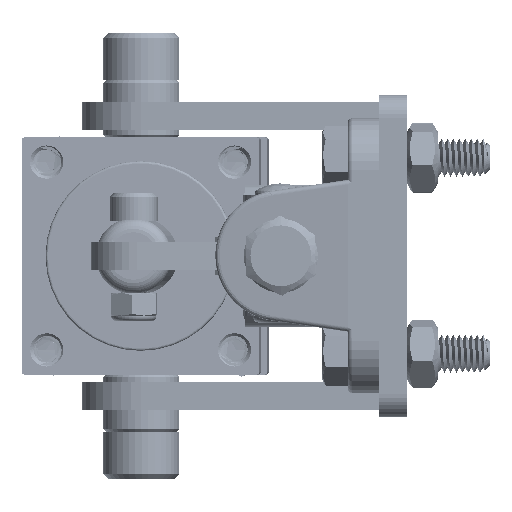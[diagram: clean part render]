
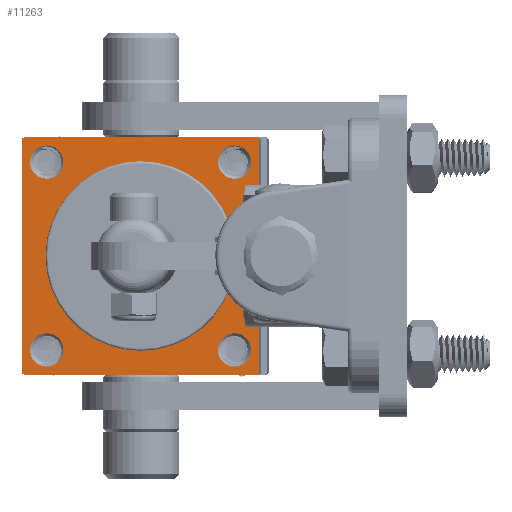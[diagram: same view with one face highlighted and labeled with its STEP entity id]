
A CAD part, left-side view. The second image highlights one B-rep face of the part: STEP entity #11263.
In plain terms, the highlighted planar face has unit normal (-1, 0.017, 0) as drawn and (0, 0, -1) by its records, which use the part's own axes.
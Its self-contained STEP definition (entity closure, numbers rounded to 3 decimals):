
#572=FACE_BOUND('',#1714,.T.);
#573=FACE_BOUND('',#1715,.T.);
#574=FACE_BOUND('',#1716,.T.);
#575=FACE_BOUND('',#1717,.T.);
#576=FACE_BOUND('',#1718,.T.);
#712=PLANE('',#12347);
#1099=FACE_OUTER_BOUND('',#1713,.T.);
#1713=EDGE_LOOP('',(#8235,#8236,#8237,#8238,#8239,#8240,#8241,#8242));
#1714=EDGE_LOOP('',(#8243,#8244));
#1715=EDGE_LOOP('',(#8245,#8246));
#1716=EDGE_LOOP('',(#8247,#8248));
#1717=EDGE_LOOP('',(#8249,#8250));
#1718=EDGE_LOOP('',(#8251,#8252));
#2340=CIRCLE('',#12244,3.5);
#2341=CIRCLE('',#12245,3.5);
#2367=CIRCLE('',#12283,3.5);
#2368=CIRCLE('',#12284,3.5);
#2369=CIRCLE('',#12286,3.5);
#2370=CIRCLE('',#12287,3.5);
#2371=CIRCLE('',#12289,3.5);
#2372=CIRCLE('',#12290,3.5);
#2399=CIRCLE('',#12326,20.);
#2400=CIRCLE('',#12327,20.);
#2415=CIRCLE('',#12348,0.5);
#2416=CIRCLE('',#12349,0.5);
#2417=CIRCLE('',#12350,0.5);
#2418=CIRCLE('',#12351,0.5);
#3289=LINE('',#19391,#4040);
#3290=LINE('',#19395,#4041);
#3291=LINE('',#19399,#4042);
#3292=LINE('',#19403,#4043);
#4040=VECTOR('',#13747,1000.);
#4041=VECTOR('',#13750,1000.);
#4042=VECTOR('',#13753,1000.);
#4043=VECTOR('',#13756,1000.);
#4795=VERTEX_POINT('',#18187);
#4796=VERTEX_POINT('',#18189);
#4848=VERTEX_POINT('',#18747);
#4849=VERTEX_POINT('',#18749);
#4854=VERTEX_POINT('',#18831);
#4855=VERTEX_POINT('',#18833);
#4858=VERTEX_POINT('',#18855);
#4859=VERTEX_POINT('',#18857);
#4888=VERTEX_POINT('',#18996);
#4889=VERTEX_POINT('',#18998);
#4928=VERTEX_POINT('',#19389);
#4929=VERTEX_POINT('',#19390);
#4930=VERTEX_POINT('',#19392);
#4931=VERTEX_POINT('',#19394);
#4932=VERTEX_POINT('',#19396);
#4933=VERTEX_POINT('',#19398);
#4934=VERTEX_POINT('',#19400);
#4935=VERTEX_POINT('',#19402);
#6081=EDGE_CURVE('',#4796,#4795,#2340,.T.);
#6082=EDGE_CURVE('',#4795,#4796,#2341,.T.);
#6142=EDGE_CURVE('',#4849,#4848,#2367,.T.);
#6143=EDGE_CURVE('',#4848,#4849,#2368,.T.);
#6149=EDGE_CURVE('',#4855,#4854,#2369,.T.);
#6150=EDGE_CURVE('',#4854,#4855,#2370,.T.);
#6154=EDGE_CURVE('',#4859,#4858,#2371,.T.);
#6155=EDGE_CURVE('',#4858,#4859,#2372,.T.);
#6194=EDGE_CURVE('',#4889,#4888,#2399,.T.);
#6195=EDGE_CURVE('',#4888,#4889,#2400,.T.);
#6236=EDGE_CURVE('',#4928,#4929,#3289,.T.);
#6237=EDGE_CURVE('',#4928,#4930,#2415,.T.);
#6238=EDGE_CURVE('',#4931,#4930,#3290,.T.);
#6239=EDGE_CURVE('',#4931,#4932,#2416,.T.);
#6240=EDGE_CURVE('',#4933,#4932,#3291,.T.);
#6241=EDGE_CURVE('',#4933,#4934,#2417,.T.);
#6242=EDGE_CURVE('',#4935,#4934,#3292,.T.);
#6243=EDGE_CURVE('',#4935,#4929,#2418,.T.);
#8235=ORIENTED_EDGE('',*,*,#6236,.F.);
#8236=ORIENTED_EDGE('',*,*,#6237,.T.);
#8237=ORIENTED_EDGE('',*,*,#6238,.F.);
#8238=ORIENTED_EDGE('',*,*,#6239,.T.);
#8239=ORIENTED_EDGE('',*,*,#6240,.F.);
#8240=ORIENTED_EDGE('',*,*,#6241,.T.);
#8241=ORIENTED_EDGE('',*,*,#6242,.F.);
#8242=ORIENTED_EDGE('',*,*,#6243,.T.);
#8243=ORIENTED_EDGE('',*,*,#6194,.T.);
#8244=ORIENTED_EDGE('',*,*,#6195,.T.);
#8245=ORIENTED_EDGE('',*,*,#6081,.T.);
#8246=ORIENTED_EDGE('',*,*,#6082,.T.);
#8247=ORIENTED_EDGE('',*,*,#6154,.T.);
#8248=ORIENTED_EDGE('',*,*,#6155,.T.);
#8249=ORIENTED_EDGE('',*,*,#6149,.T.);
#8250=ORIENTED_EDGE('',*,*,#6150,.T.);
#8251=ORIENTED_EDGE('',*,*,#6142,.T.);
#8252=ORIENTED_EDGE('',*,*,#6143,.T.);
#11263=ADVANCED_FACE('',(#1099,#572,#573,#574,#575,#576),#712,.F.);
#12244=AXIS2_PLACEMENT_3D('',#18190,#13507,#13508);
#12245=AXIS2_PLACEMENT_3D('',#18191,#13509,#13510);
#12283=AXIS2_PLACEMENT_3D('',#18750,#13597,#13598);
#12284=AXIS2_PLACEMENT_3D('',#18751,#13599,#13600);
#12286=AXIS2_PLACEMENT_3D('',#18834,#13604,#13605);
#12287=AXIS2_PLACEMENT_3D('',#18835,#13606,#13607);
#12289=AXIS2_PLACEMENT_3D('',#18858,#13611,#13612);
#12290=AXIS2_PLACEMENT_3D('',#18859,#13613,#13614);
#12326=AXIS2_PLACEMENT_3D('',#18999,#13693,#13694);
#12327=AXIS2_PLACEMENT_3D('',#19000,#13695,#13696);
#12347=AXIS2_PLACEMENT_3D('',#19388,#13745,#13746);
#12348=AXIS2_PLACEMENT_3D('',#19393,#13748,#13749);
#12349=AXIS2_PLACEMENT_3D('',#19397,#13751,#13752);
#12350=AXIS2_PLACEMENT_3D('',#19401,#13754,#13755);
#12351=AXIS2_PLACEMENT_3D('',#19404,#13757,#13758);
#13507=DIRECTION('center_axis',(0.,0.,1.));
#13508=DIRECTION('ref_axis',(1.,0.,0.));
#13509=DIRECTION('center_axis',(0.,0.,1.));
#13510=DIRECTION('ref_axis',(1.,0.,0.));
#13597=DIRECTION('center_axis',(0.,0.,1.));
#13598=DIRECTION('ref_axis',(1.,0.,0.));
#13599=DIRECTION('center_axis',(0.,0.,1.));
#13600=DIRECTION('ref_axis',(1.,0.,0.));
#13604=DIRECTION('center_axis',(0.,0.,1.));
#13605=DIRECTION('ref_axis',(1.,0.,0.));
#13606=DIRECTION('center_axis',(0.,0.,1.));
#13607=DIRECTION('ref_axis',(1.,0.,0.));
#13611=DIRECTION('center_axis',(0.,0.,1.));
#13612=DIRECTION('ref_axis',(1.,0.,0.));
#13613=DIRECTION('center_axis',(0.,0.,1.));
#13614=DIRECTION('ref_axis',(1.,0.,0.));
#13693=DIRECTION('center_axis',(0.,0.,1.));
#13694=DIRECTION('ref_axis',(1.,0.,0.));
#13695=DIRECTION('center_axis',(0.,0.,1.));
#13696=DIRECTION('ref_axis',(1.,0.,0.));
#13745=DIRECTION('center_axis',(0.,0.,1.));
#13746=DIRECTION('ref_axis',(1.,0.,0.));
#13747=DIRECTION('',(-1.,0.,0.));
#13748=DIRECTION('center_axis',(0.,0.,-1.));
#13749=DIRECTION('ref_axis',(1.,0.,0.));
#13750=DIRECTION('',(0.,1.,0.));
#13751=DIRECTION('center_axis',(0.,0.,-1.));
#13752=DIRECTION('ref_axis',(1.,0.,0.));
#13753=DIRECTION('',(1.,0.,0.));
#13754=DIRECTION('center_axis',(0.,0.,-1.));
#13755=DIRECTION('ref_axis',(1.,0.,0.));
#13756=DIRECTION('',(0.,-1.,0.));
#13757=DIRECTION('center_axis',(0.,0.,-1.));
#13758=DIRECTION('ref_axis',(1.,0.,0.));
#18187=CARTESIAN_POINT('',(23.3,19.8,3.));
#18189=CARTESIAN_POINT('',(16.3,19.8,3.));
#18190=CARTESIAN_POINT('Origin',(19.8,19.8,3.));
#18191=CARTESIAN_POINT('Origin',(19.8,19.8,3.));
#18747=CARTESIAN_POINT('',(-16.3,19.8,3.));
#18749=CARTESIAN_POINT('',(-23.3,19.8,3.));
#18750=CARTESIAN_POINT('Origin',(-19.8,19.8,3.));
#18751=CARTESIAN_POINT('Origin',(-19.8,19.8,3.));
#18831=CARTESIAN_POINT('',(-16.3,-19.8,3.));
#18833=CARTESIAN_POINT('',(-23.3,-19.8,3.));
#18834=CARTESIAN_POINT('Origin',(-19.8,-19.8,3.));
#18835=CARTESIAN_POINT('Origin',(-19.8,-19.8,3.));
#18855=CARTESIAN_POINT('',(23.3,-19.8,3.));
#18857=CARTESIAN_POINT('',(16.3,-19.8,3.));
#18858=CARTESIAN_POINT('Origin',(19.8,-19.8,3.));
#18859=CARTESIAN_POINT('Origin',(19.8,-19.8,3.));
#18996=CARTESIAN_POINT('',(20.,0.,3.));
#18998=CARTESIAN_POINT('',(-20.,0.,3.));
#18999=CARTESIAN_POINT('Origin',(0.,0.,3.));
#19000=CARTESIAN_POINT('Origin',(0.,0.,3.));
#19388=CARTESIAN_POINT('Origin',(-25.,-25.,3.));
#19389=CARTESIAN_POINT('',(24.5,25.,3.));
#19390=CARTESIAN_POINT('',(-24.5,25.,3.));
#19391=CARTESIAN_POINT('',(-25.,25.,3.));
#19392=CARTESIAN_POINT('',(25.,24.5,3.));
#19393=CARTESIAN_POINT('Origin',(24.5,24.5,3.));
#19394=CARTESIAN_POINT('',(25.,-24.5,3.));
#19395=CARTESIAN_POINT('',(25.,25.,3.));
#19396=CARTESIAN_POINT('',(24.5,-25.,3.));
#19397=CARTESIAN_POINT('Origin',(24.5,-24.5,3.));
#19398=CARTESIAN_POINT('',(-24.5,-25.,3.));
#19399=CARTESIAN_POINT('',(-25.,-25.,3.));
#19400=CARTESIAN_POINT('',(-25.,-24.5,3.));
#19401=CARTESIAN_POINT('Origin',(-24.5,-24.5,3.));
#19402=CARTESIAN_POINT('',(-25.,24.5,3.));
#19403=CARTESIAN_POINT('',(-25.,25.,3.));
#19404=CARTESIAN_POINT('Origin',(-24.5,24.5,3.));
